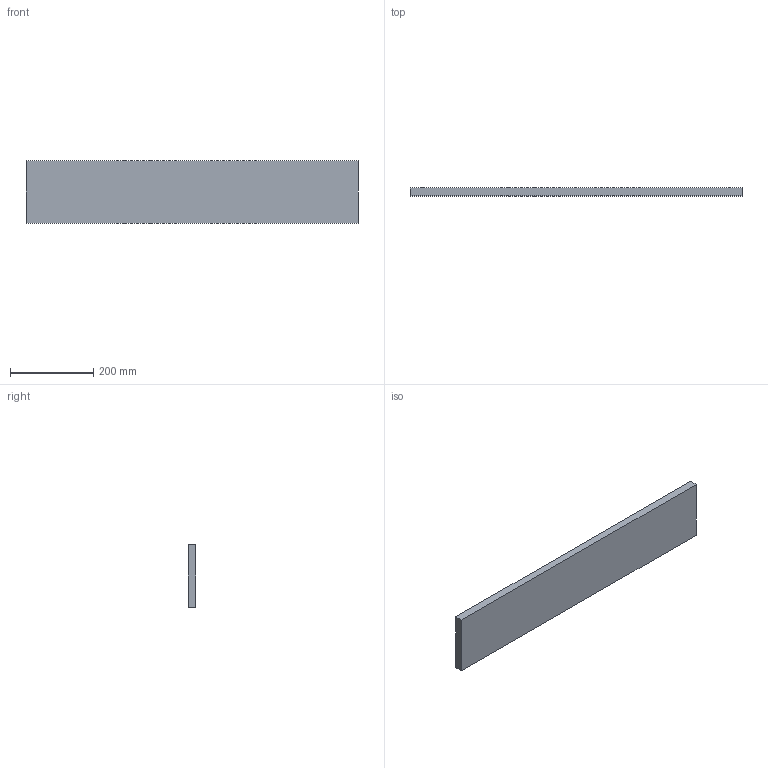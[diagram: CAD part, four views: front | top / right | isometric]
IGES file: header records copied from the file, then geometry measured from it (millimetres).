
Start section:  PTC IGES file: l5_33w_mid_frnt.igs
Global section: file name: l5_33w_mid_frnt.igs; native system: Creo Parametric by Parametric Technology Corporation; preprocessor: 2014310; author: apappas; organization: Unknown; date: 20150316.073522; units: inch
Bounding box: 796.92 x 19.05 x 149.22 mm (x, y, z)
Volume: 2264977.2 mm3; surface area: 274518.4 mm2
Topology: 1 solids, 1 shells, 24 faces, 48 edges, 32 vertices
Faces by surface type: bspline 24
